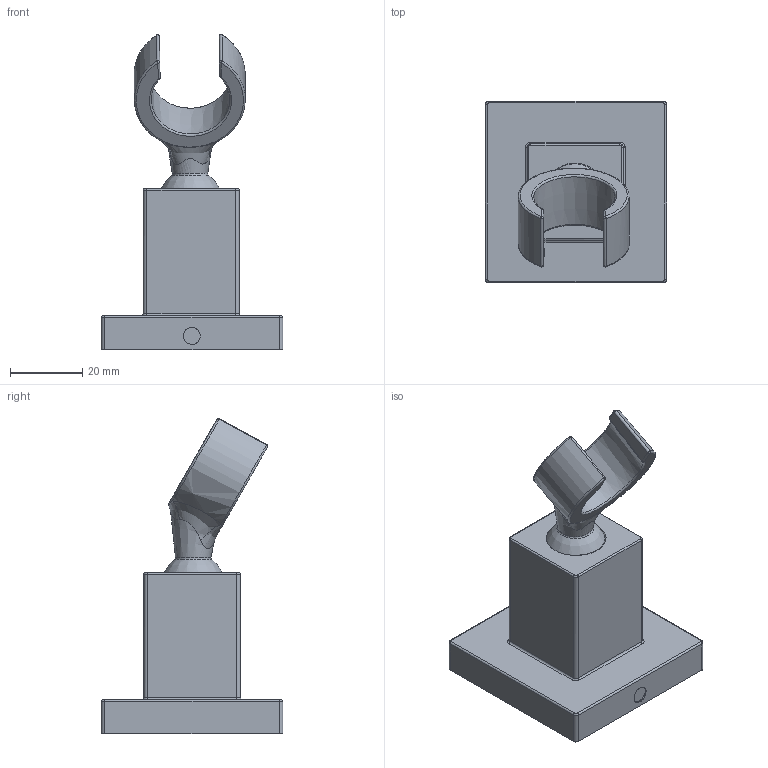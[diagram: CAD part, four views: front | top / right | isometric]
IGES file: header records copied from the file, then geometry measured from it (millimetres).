
Global section: file name: 402d7aae-ae66-44f3-a0c9-ba0cf45dff75.zip; native system: unknown; preprocessor: unknown; author: unknown; organization: unknown; date: 20191214.155236; units: millimetre
Bounding box: 50.31 x 50.34 x 87.3 mm (x, y, z)
Volume: 54950.5 mm3; surface area: 15017.2 mm2
Topology: 2 solids, 2 shells, 81 faces, 185 edges, 107 vertices
Faces by surface type: bspline 81
